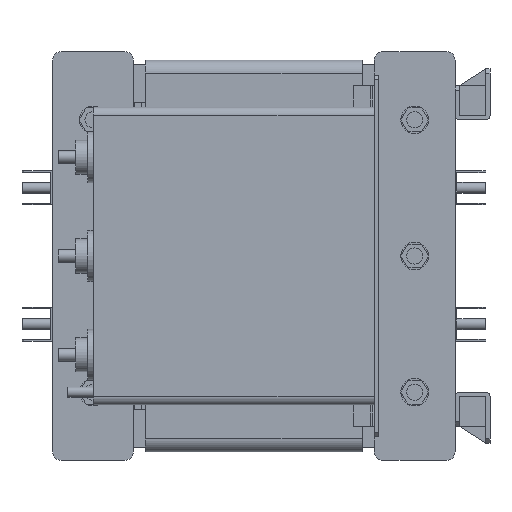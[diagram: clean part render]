
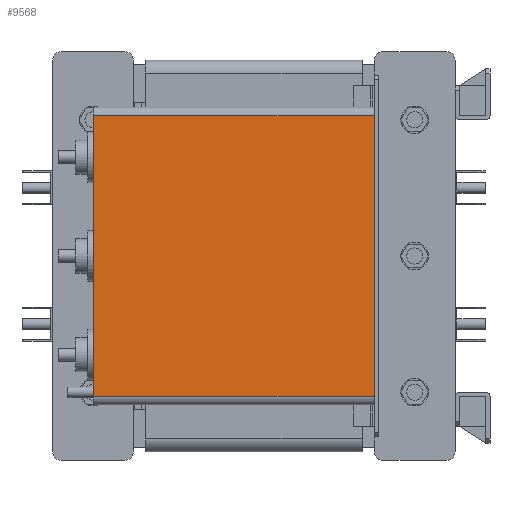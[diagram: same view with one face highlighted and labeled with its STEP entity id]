
A CAD part, left-side view. The second image highlights one B-rep face of the part: STEP entity #9568.
In plain terms, the highlighted planar face has unit normal (-1, 0, 0).
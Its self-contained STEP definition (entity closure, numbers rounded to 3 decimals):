
#1021=FACE_OUTER_BOUND('',#1648,.T.);
#1648=EDGE_LOOP('',(#8105,#8106,#8107,#8108));
#2554=LINE('',#15521,#3577);
#2593=LINE('',#15626,#3616);
#2594=LINE('',#15629,#3617);
#2595=LINE('',#15630,#3618);
#3577=VECTOR('',#12807,10.);
#3616=VECTOR('',#12908,10.);
#3617=VECTOR('',#12911,10.);
#3618=VECTOR('',#12912,10.);
#4455=VERTEX_POINT('',#15518);
#4456=VERTEX_POINT('',#15520);
#4491=VERTEX_POINT('',#15624);
#4492=VERTEX_POINT('',#15628);
#5679=EDGE_CURVE('',#4455,#4456,#2554,.T.);
#5732=EDGE_CURVE('',#4455,#4491,#2593,.T.);
#5733=EDGE_CURVE('',#4492,#4491,#2594,.T.);
#5734=EDGE_CURVE('',#4456,#4492,#2595,.T.);
#8105=ORIENTED_EDGE('',*,*,#5679,.F.);
#8106=ORIENTED_EDGE('',*,*,#5732,.T.);
#8107=ORIENTED_EDGE('',*,*,#5733,.F.);
#8108=ORIENTED_EDGE('',*,*,#5734,.F.);
#9005=PLANE('',#10464);
#9568=ADVANCED_FACE('',(#1021),#9005,.T.);
#10464=AXIS2_PLACEMENT_3D('',#15627,#12909,#12910);
#12807=DIRECTION('',(0.,0.,-1.));
#12908=DIRECTION('',(0.,1.,0.));
#12909=DIRECTION('center_axis',(-1.,0.,0.));
#12910=DIRECTION('ref_axis',(0.,0.,
1.));
#12911=DIRECTION('',(0.,0.,1.));
#12912=DIRECTION('',(0.,1.,0.));
#15518=CARTESIAN_POINT('',(-335.,-14.,165.));
#15520=CARTESIAN_POINT('',(-335.,-14.,-165.));
#15521=CARTESIAN_POINT('',(-335.,-14.,32.5));
#15624=CARTESIAN_POINT('',(-335.,316.,165.));
#15626=CARTESIAN_POINT('',(-335.,-14.,165.));
#15627=CARTESIAN_POINT('Origin',(-335.,-14.,-165.));
#15628=CARTESIAN_POINT('',(-335.,316.,-165.));
#15629=CARTESIAN_POINT('',(-335.,316.,-165.));
#15630=CARTESIAN_POINT('',(-335.,-14.,-165.));
